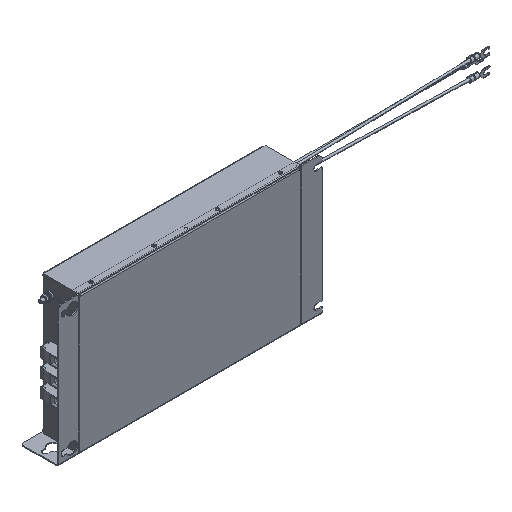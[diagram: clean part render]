
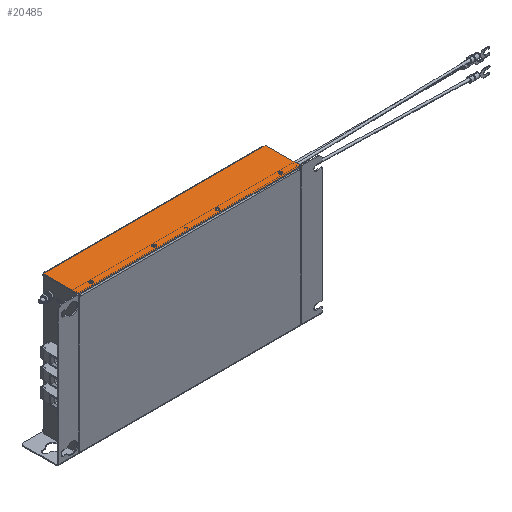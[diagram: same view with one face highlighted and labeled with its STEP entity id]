
A CAD part, isometric view. The second image highlights one B-rep face of the part: STEP entity #20485.
In plain terms, the highlighted planar face has unit normal (0, 0, 1) as drawn and (1, 0, 0) by its records, which use the part's own axes.
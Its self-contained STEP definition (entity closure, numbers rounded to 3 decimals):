
#67 = CARTESIAN_POINT ( 'NONE',  ( 0., -1.5, -3. ) ) ;
#274 = DIRECTION ( 'NONE',  ( 0., 0., -1. ) ) ;
#627 = EDGE_CURVE ( 'NONE', #16866, #8125, #23516, .T. ) ;
#648 = VECTOR ( 'NONE', #28462, 1000. ) ;
#745 = ORIENTED_EDGE ( 'NONE', *, *, #25834, .F. ) ;
#784 = CARTESIAN_POINT ( 'NONE',  ( 0., -1.5, -3. ) ) ;
#1076 = DIRECTION ( 'NONE',  ( -1., 0., 0. ) ) ;
#1284 = FACE_OUTER_BOUND ( 'NONE', #22413, .T. ) ;
#1668 = DIRECTION ( 'NONE',  ( -1., 0., 0. ) ) ;
#1808 = EDGE_CURVE ( 'NONE', #34882, #22307, #22534, .T. ) ;
#2600 = EDGE_CURVE ( 'NONE', #6058, #26011, #36113, .T. ) ;
#2692 = VERTEX_POINT ( 'NONE', #24258 ) ;
#3119 = CARTESIAN_POINT ( 'NONE',  ( 0., -51., -127.6 ) ) ;
#3913 = FACE_BOUND ( 'NONE', #31268, .T. ) ;
#4008 = CARTESIAN_POINT ( 'NONE',  ( 0., -1.5, -176. ) ) ;
#4169 = VECTOR ( 'NONE', #9904, 1000. ) ;
#4295 = DIRECTION ( 'NONE',  ( 0., 0., -1. ) ) ;
#4322 = FACE_BOUND ( 'NONE', #17405, .T. ) ;
#5022 = AXIS2_PLACEMENT_3D ( 'NONE', #19734, #22614, #13478 ) ;
#5237 = EDGE_CURVE ( 'NONE', #26011, #6058, #25652, .T. ) ;
#6058 = VERTEX_POINT ( 'NONE', #38109 ) ;
#6093 = VECTOR ( 'NONE', #36115, 1000. ) ;
#6447 = EDGE_CURVE ( 'NONE', #2692, #24008, #40131, .T. ) ;
#6560 = CARTESIAN_POINT ( 'NONE',  ( 0., -51., -224.4 ) ) ;
#6701 = CARTESIAN_POINT ( 'NONE',  ( 0., -51., -327.6 ) ) ;
#6778 = LINE ( 'NONE', #15926, #33449 ) ;
#6899 = CARTESIAN_POINT ( 'NONE',  ( 0., -57.5, -352. ) ) ;
#6905 = CARTESIAN_POINT ( 'NONE',  ( 0., -57.5, 0. ) ) ;
#7320 = LINE ( 'NONE', #20318, #19282 ) ;
#7366 = ORIENTED_EDGE ( 'NONE', *, *, #25533, .T. ) ;
#8050 = CIRCLE ( 'NONE', #22346, 1.6 ) ;
#8125 = VERTEX_POINT ( 'NONE', #8689 ) ;
#8689 = CARTESIAN_POINT ( 'NONE',  ( 0., -51., -324.4 ) ) ;
#8873 = DIRECTION ( 'NONE',  ( 0., 0., -1. ) ) ;
#9519 = CARTESIAN_POINT ( 'NONE',  ( 0., -57.5, -352. ) ) ;
#9904 = DIRECTION ( 'NONE',  ( 0., 0., -1. ) ) ;
#11236 = EDGE_CURVE ( 'NONE', #30247, #28751, #16400, .T. ) ;
#12420 = LINE ( 'NONE', #784, #4169 ) ;
#13079 = DIRECTION ( 'NONE',  ( 0., 1., 0. ) ) ;
#13474 = DIRECTION ( 'NONE',  ( 0., 0., -1. ) ) ;
#13478 = DIRECTION ( 'NONE',  ( 0., 0., -1. ) ) ;
#13547 = DIRECTION ( 'NONE',  ( -1., 0., 0. ) ) ;
#13673 = DIRECTION ( 'NONE',  ( 0., 0., -1. ) ) ;
#14354 = EDGE_CURVE ( 'NONE', #24008, #2692, #40125, .T. ) ;
#15064 = AXIS2_PLACEMENT_3D ( 'NONE', #38159, #28594, #29395 ) ;
#15234 = EDGE_CURVE ( 'NONE', #28004, #34882, #7320, .T. ) ;
#15790 = ORIENTED_EDGE ( 'NONE', *, *, #11236, .T. ) ;
#15926 = CARTESIAN_POINT ( 'NONE',  ( 0., -1.5, 0. ) ) ;
#16208 = DIRECTION ( 'NONE',  ( 0., 0., 1. ) ) ;
#16292 = DIRECTION ( 'NONE',  ( -1., 0., 0. ) ) ;
#16400 = CIRCLE ( 'NONE', #22908, 1.6 ) ;
#16866 = VERTEX_POINT ( 'NONE', #6701 ) ;
#16901 = CARTESIAN_POINT ( 'NONE',  ( 0., -1.5, -349. ) ) ;
#17405 = EDGE_LOOP ( 'NONE', ( #31770, #30659 ) ) ;
#19171 = CARTESIAN_POINT ( 'NONE',  ( 0., -51., -26. ) ) ;
#19282 = VECTOR ( 'NONE', #19493, 1000. ) ;
#19493 = DIRECTION ( 'NONE',  ( 0., -1., 0. ) ) ;
#19734 = CARTESIAN_POINT ( 'NONE',  ( 0., -51., -226. ) ) ;
#20318 = CARTESIAN_POINT ( 'NONE',  ( 0., -1.5, -352. ) ) ;
#20485 = ADVANCED_FACE ( 'NONE', ( #4322, #29144, #31969, #3913, #1284 ), #25890, .T. ) ;
#20503 = AXIS2_PLACEMENT_3D ( 'NONE', #28938, #1076, #13474 ) ;
#21014 = EDGE_CURVE ( 'NONE', #36957, #28004, #29401, .T. ) ;
#21199 = ORIENTED_EDGE ( 'NONE', *, *, #1808, .F. ) ;
#21222 = ORIENTED_EDGE ( 'NONE', *, *, #34896, .F. ) ;
#21359 = ORIENTED_EDGE ( 'NONE', *, *, #35903, .T. ) ;
#21663 = EDGE_CURVE ( 'NONE', #8125, #16866, #22339, .T. ) ;
#22041 = DIRECTION ( 'NONE',  ( 0., 0., -1. ) ) ;
#22307 = VERTEX_POINT ( 'NONE', #6905 ) ;
#22339 = CIRCLE ( 'NONE', #30159, 1.6 ) ;
#22346 = AXIS2_PLACEMENT_3D ( 'NONE', #36763, #39438, #8873 ) ;
#22413 = EDGE_LOOP ( 'NONE', ( #21359, #21222, #745, #21199, #31415, #37387 ) ) ;
#22534 = LINE ( 'NONE', #9519, #648 ) ;
#22614 = DIRECTION ( 'NONE',  ( -1., 0., 0. ) ) ;
#22908 = AXIS2_PLACEMENT_3D ( 'NONE', #29520, #1668, #4295 ) ;
#23070 = CARTESIAN_POINT ( 'NONE',  ( 0., -1.5, -352. ) ) ;
#23516 = CIRCLE ( 'NONE', #15064, 1.6 ) ;
#24008 = VERTEX_POINT ( 'NONE', #6560 ) ;
#24258 = CARTESIAN_POINT ( 'NONE',  ( 0., -51., -227.6 ) ) ;
#25533 = EDGE_CURVE ( 'NONE', #28751, #30247, #8050, .T. ) ;
#25652 = CIRCLE ( 'NONE', #38689, 1.6 ) ;
#25834 = EDGE_CURVE ( 'NONE', #22307, #34891, #6778, .T. ) ;
#25890 = PLANE ( 'NONE',  #28165 ) ;
#26011 = VERTEX_POINT ( 'NONE', #27320 ) ;
#26583 = CARTESIAN_POINT ( 'NONE',  ( 0., -51., -326. ) ) ;
#26777 = CARTESIAN_POINT ( 'NONE',  ( 0., -1.5, -349. ) ) ;
#27320 = CARTESIAN_POINT ( 'NONE',  ( 0., -51., -24.4 ) ) ;
#28004 = VERTEX_POINT ( 'NONE', #23070 ) ;
#28140 = CARTESIAN_POINT ( 'NONE',  ( 0., -51., -226. ) ) ;
#28165 = AXIS2_PLACEMENT_3D ( 'NONE', #35447, #38303, #13673 ) ;
#28462 = DIRECTION ( 'NONE',  ( 0., 0., 1. ) ) ;
#28594 = DIRECTION ( 'NONE',  ( -1., 0., 0. ) ) ;
#28653 = CARTESIAN_POINT ( 'NONE',  ( 0., -1.5, 0. ) ) ;
#28751 = VERTEX_POINT ( 'NONE', #31374 ) ;
#28938 = CARTESIAN_POINT ( 'NONE',  ( 0., -51., -26. ) ) ;
#29144 = FACE_BOUND ( 'NONE', #30440, .T. ) ;
#29395 = DIRECTION ( 'NONE',  ( 0., 0., -1. ) ) ;
#29401 = LINE ( 'NONE', #26777, #6093 ) ;
#29520 = CARTESIAN_POINT ( 'NONE',  ( 0., -51., -126. ) ) ;
#30159 = AXIS2_PLACEMENT_3D ( 'NONE', #26583, #13547, #38989 ) ;
#30247 = VERTEX_POINT ( 'NONE', #3119 ) ;
#30440 = EDGE_LOOP ( 'NONE', ( #38299, #35310 ) ) ;
#30547 = ORIENTED_EDGE ( 'NONE', *, *, #2600, .T. ) ;
#30659 = ORIENTED_EDGE ( 'NONE', *, *, #14354, .T. ) ;
#31268 = EDGE_LOOP ( 'NONE', ( #30547, #33700 ) ) ;
#31374 = CARTESIAN_POINT ( 'NONE',  ( 0., -51., -124.4 ) ) ;
#31415 = ORIENTED_EDGE ( 'NONE', *, *, #15234, .F. ) ;
#31511 = VECTOR ( 'NONE', #16208, 1000. ) ;
#31677 = LINE ( 'NONE', #4008, #31511 ) ;
#31770 = ORIENTED_EDGE ( 'NONE', *, *, #6447, .T. ) ;
#31969 = FACE_BOUND ( 'NONE', #35273, .T. ) ;
#33449 = VECTOR ( 'NONE', #13079, 1000. ) ;
#33700 = ORIENTED_EDGE ( 'NONE', *, *, #5237, .T. ) ;
#34250 = AXIS2_PLACEMENT_3D ( 'NONE', #28140, #16292, #274 ) ;
#34882 = VERTEX_POINT ( 'NONE', #6899 ) ;
#34891 = VERTEX_POINT ( 'NONE', #28653 ) ;
#34896 = EDGE_CURVE ( 'NONE', #34891, #39968, #12420, .T. ) ;
#35273 = EDGE_LOOP ( 'NONE', ( #15790, #7366 ) ) ;
#35310 = ORIENTED_EDGE ( 'NONE', *, *, #21663, .T. ) ;
#35447 = CARTESIAN_POINT ( 'NONE',  ( 0., -27.828, -176. ) ) ;
#35903 = EDGE_CURVE ( 'NONE', #36957, #39968, #31677, .T. ) ;
#36113 = CIRCLE ( 'NONE', #20503, 1.6 ) ;
#36115 = DIRECTION ( 'NONE',  ( 0., 0., -1. ) ) ;
#36763 = CARTESIAN_POINT ( 'NONE',  ( 0., -51., -126. ) ) ;
#36957 = VERTEX_POINT ( 'NONE', #16901 ) ;
#37334 = DIRECTION ( 'NONE',  ( -1., 0., 0. ) ) ;
#37387 = ORIENTED_EDGE ( 'NONE', *, *, #21014, .F. ) ;
#38109 = CARTESIAN_POINT ( 'NONE',  ( 0., -51., -27.6 ) ) ;
#38159 = CARTESIAN_POINT ( 'NONE',  ( 0., -51., -326. ) ) ;
#38299 = ORIENTED_EDGE ( 'NONE', *, *, #627, .T. ) ;
#38303 = DIRECTION ( 'NONE',  ( 1., 0., 0. ) ) ;
#38689 = AXIS2_PLACEMENT_3D ( 'NONE', #19171, #37334, #22041 ) ;
#38989 = DIRECTION ( 'NONE',  ( 0., 0., -1. ) ) ;
#39438 = DIRECTION ( 'NONE',  ( -1., 0., 0. ) ) ;
#39968 = VERTEX_POINT ( 'NONE', #67 ) ;
#40125 = CIRCLE ( 'NONE', #34250, 1.6 ) ;
#40131 = CIRCLE ( 'NONE', #5022, 1.6 ) ;
